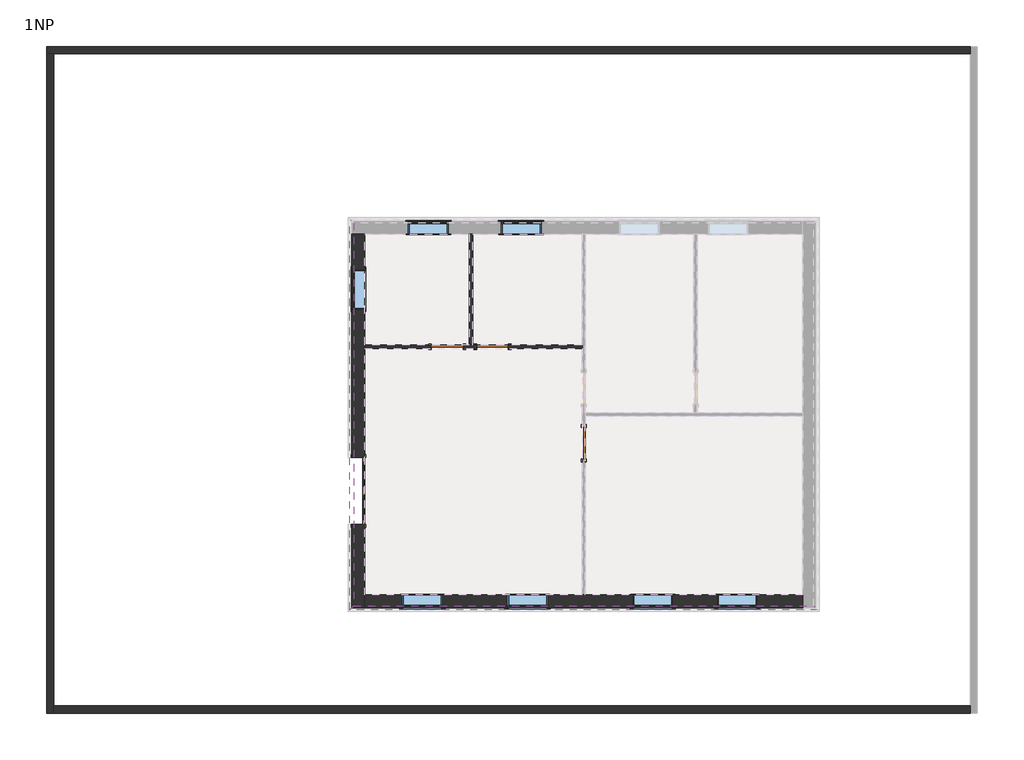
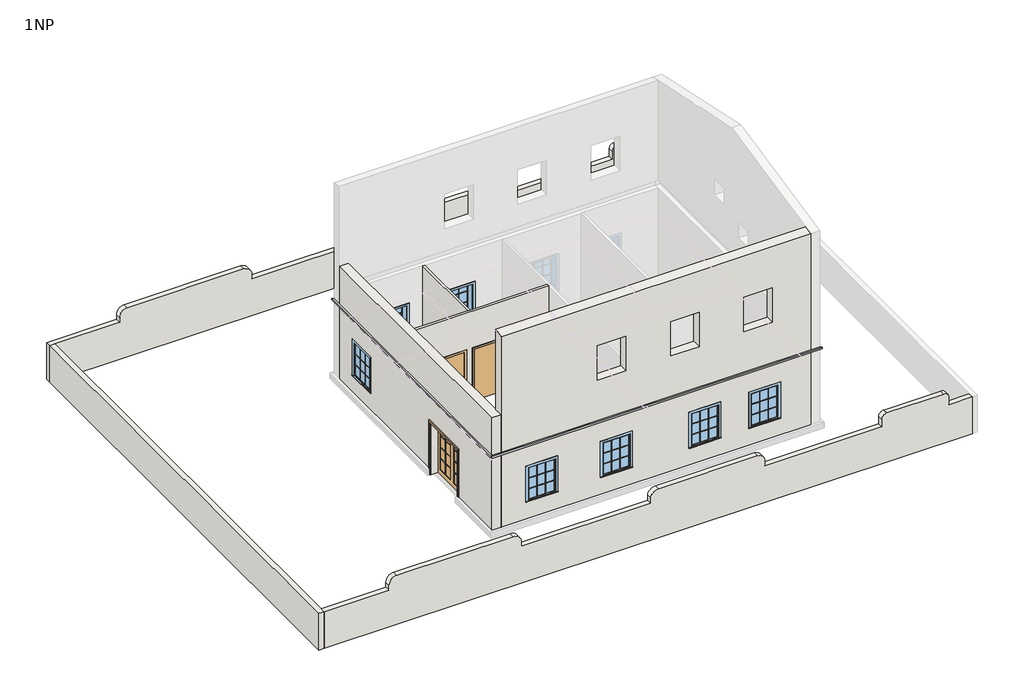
# One storey, part 1 of 2: 7 walls, 7 windows, 4 doors, 2 proxies.
"""IFC4 building model written with IfcOpenShell, lengths in millimetres."""

import ifcopenshell
import ifcopenshell.guid

model = None  # the IFC model being written
_history = None  # IfcOwnerHistory: only IFC2X3 demands one
_inside = {}  # id of a spatial element -> (the spatial element, [elements in it])
_under = {}  # id of a project, library or spatial element -> (it, [spatial elements below it])
_declared = {}  # id of a project -> (the project, [libraries it declares])
_typed = {}  # id of a type object -> (the type object, [elements of that type])
_made_of = {}  # id of a material, layer set ... -> (it, [elements and type objects made of it])


def new_model(schema):
    """Start an empty IFC model of exactly this schema.

    Asked for "IFC4X3", IfcOpenShell would pick the latest addendum, in which some entities
    have other attributes; the version numbers below select the first issue.
    IFC2X3 requires an IfcOwnerHistory on every rooted entity: one is made here for all.
    """
    global model, _history
    if schema == "IFC4X3":
        model = ifcopenshell.file(schema_version=(4, 3, 0, 0))
    else:
        model = ifcopenshell.file(schema=schema)
    _inside.clear()
    _under.clear()
    _declared.clear()
    _typed.clear()
    _made_of.clear()
    _history = None
    if model.schema == "IFC2X3":
        org = make("IfcOrganization", Name="unknown")
        user = make(
            "IfcPersonAndOrganization",
            ThePerson=make("IfcPerson", FamilyName="unknown"),
            TheOrganization=org,
        )
        app = make(
            "IfcApplication",
            ApplicationDeveloper=org,
            Version="unknown",
            ApplicationFullName="unknown",
            ApplicationIdentifier="unknown",
        )
        _history = make(
            "IfcOwnerHistory",
            OwningUser=user,
            OwningApplication=app,
            ChangeAction="ADDED",
            CreationDate=0,
        )
    return model


def make(cls, **values):
    """One entity of the class cls with the attributes given. An attribute that is None is left unset."""
    return model.create_entity(
        cls, **{name: value for name, value in values.items() if value is not None}
    )


def rooted(cls, **values):
    """An entity with a GlobalId (a new one), such as an element, a storey or a relation."""
    return make(cls, GlobalId=ifcopenshell.guid.new(), OwnerHistory=_history, **values)


def si_unit(unit_type, name, prefix=None):
    """IfcSIUnit, for example si_unit("LENGTHUNIT", "METRE", prefix="MILLI")."""
    return make("IfcSIUnit", UnitType=unit_type, Prefix=prefix, Name=name)


def assignment(units):
    """IfcUnitAssignment: the units of a project."""
    return None if units is None else make("IfcUnitAssignment", Units=units)


def point(xyz):
    """IfcCartesianPoint."""
    return None if xyz is None else make("IfcCartesianPoint", Coordinates=xyz)


def direction(xyz):
    """IfcDirection."""
    return None if xyz is None else make("IfcDirection", DirectionRatios=xyz)


def frame(location, z_axis=None, x_axis=None):
    """IfcAxis2Placement3D, a coordinate frame: its origin and axes. An axis left out is left unset."""
    return make(
        "IfcAxis2Placement3D",
        Location=point(location),
        Axis=direction(z_axis),
        RefDirection=direction(x_axis),
    )


def frame_2d(location, x_axis=None):
    """IfcAxis2Placement2D, a coordinate frame in the plane: its origin and x axis."""
    return make(
        "IfcAxis2Placement2D", Location=point(location), RefDirection=direction(x_axis)
    )


def origin():
    """The frame at (0, 0, 0) with its axes left unset."""
    return frame((0.0, 0.0, 0.0))


def origin_with_axes():
    """The frame at (0, 0, 0) with the z axis (0, 0, 1) and the x axis (1, 0, 0) written out."""
    return frame((0.0, 0.0, 0.0), z_axis=(0.0, 0.0, 1.0), x_axis=(1.0, 0.0, 0.0))


def place(relative_to, where):
    """IfcLocalPlacement: puts the frame where relative to a parent placement (None: the world)."""
    return make(
        "IfcLocalPlacement", PlacementRelTo=relative_to, RelativePlacement=where
    )


def context(
    kind, dimensions, precision=None, world=None, true_north=None, identifier=None
):
    """IfcGeometricRepresentationContext, for example the 3D "Model" context."""
    return make(
        "IfcGeometricRepresentationContext",
        ContextIdentifier=identifier,
        ContextType=kind,
        CoordinateSpaceDimension=dimensions,
        Precision=precision,
        WorldCoordinateSystem=world,
        TrueNorth=true_north,
    )


def project(units=None, contexts=None):
    """IfcProject with its units and contexts."""
    return rooted(
        "IfcProject",
        Name="project",
        RepresentationContexts=contexts,
        UnitsInContext=assignment(units),
    )


def spatial(cls, under=None, at=None, **own):
    """A site, building, storey or space (cls), placed at a placement, below another one or the project."""
    s = rooted(cls, ObjectPlacement=at, **own)
    if under is not None:
        _under.setdefault(under.id(), (under, []))[1].append(s)
    return s


def polyline(points):
    """IfcPolyline through the points."""
    return make("IfcPolyline", Points=[point(p) for p in points])


def circle_curve(where, radius):
    """IfcCircle in the frame where."""
    return make("IfcCircle", Position=where, Radius=radius)


def trimmed(basis, trim1, trim2, sense, master):
    """IfcTrimmedCurve: the piece of a basis curve between two trims."""
    return make(
        "IfcTrimmedCurve",
        BasisCurve=basis,
        Trim1=trim1,
        Trim2=trim2,
        SenseAgreement=sense,
        MasterRepresentation=master,
    )


def segment(curve, same_sense, transition):
    """IfcCompositeCurveSegment."""
    return make(
        "IfcCompositeCurveSegment",
        Transition=transition,
        SameSense=same_sense,
        ParentCurve=curve,
    )


def composite_curve(segments, self_intersect=None):
    """IfcCompositeCurve: segments joined end to end."""
    return make("IfcCompositeCurve", Segments=segments, SelfIntersect=self_intersect)


def outline(outer, holes=None, kind="AREA"):
    """IfcArbitraryClosedProfileDef: a profile drawn as a closed curve; with holes, ...WithVoids."""
    if holes is None:
        return make("IfcArbitraryClosedProfileDef", ProfileType=kind, OuterCurve=outer)
    return make(
        "IfcArbitraryProfileDefWithVoids",
        ProfileType=kind,
        OuterCurve=outer,
        InnerCurves=holes,
    )


def extrude(swept, where, along, depth):
    """IfcExtrudedAreaSolid: the profile swept, set in the frame where, extruded along a direction by depth."""
    return make(
        "IfcExtrudedAreaSolid",
        SweptArea=swept,
        Position=where,
        ExtrudedDirection=direction(along),
        Depth=depth,
    )


def faces_of(points, faces, orient=None, outer=None):
    """IfcFace entities. A face is a list of loops; a loop is a list of indices into points, from 0.

    orient and outer hold one flag for each loop. By default every Orientation is true, the
    first loop of a face is its IfcFaceOuterBound and the others are IfcFaceBound.
    """
    made = []
    for i, loops in enumerate(faces):
        bounds = []
        for j, loop in enumerate(loops):
            is_outer = j == 0 if outer is None else outer[i][j]
            bounds.append(
                make(
                    "IfcFaceOuterBound" if is_outer else "IfcFaceBound",
                    Bound=make("IfcPolyLoop", Polygon=[points[k] for k in loop]),
                    Orientation=True if orient is None else orient[i][j],
                )
            )
        made.append(make("IfcFace", Bounds=bounds))
    return made


def faceted_brep(points, faces, orient=None, outer=None, voids=None):
    """IfcFacetedBrep: a solid bounded by flat faces; with voids (closed shells), ...WithVoids."""
    shared = [point(p) for p in points]
    hull = make("IfcClosedShell", CfsFaces=faces_of(shared, faces, orient, outer))
    if voids is None:
        return make("IfcFacetedBrep", Outer=hull)
    return make(
        "IfcFacetedBrepWithVoids",
        Outer=hull,
        Voids=[
            make(cls, CfsFaces=faces_of(shared, fs, o, b)) for cls, fs, o, b in voids
        ],
    )


def shape(context_of_items, identifier, shape_type, items):
    """IfcShapeRepresentation: the items that make up one representation, for example the "Body"."""
    return make(
        "IfcShapeRepresentation",
        ContextOfItems=context_of_items,
        RepresentationIdentifier=identifier,
        RepresentationType=shape_type,
        Items=items,
    )


def source(mapping_origin, context_of_items, identifier, shape_type, items):
    """IfcRepresentationMap: a shape defined once, which mapped items show again and again."""
    return make(
        "IfcRepresentationMap",
        MappingOrigin=mapping_origin,
        MappedRepresentation=shape(context_of_items, identifier, shape_type, items),
    )


def transform(
    local_origin,
    x_axis=None,
    y_axis=None,
    z_axis=None,
    scale=None,
    scale2=None,
    scale3=None,
    uniform=True,
):
    """IfcCartesianTransformationOperator3D, or its non-uniform kind. x_axis, y_axis, z_axis: its Axis1, 2, 3."""
    if uniform:
        return make(
            "IfcCartesianTransformationOperator3D",
            Axis1=direction(x_axis),
            Axis2=direction(y_axis),
            LocalOrigin=point(local_origin),
            Scale=scale,
            Axis3=direction(z_axis),
        )
    return make(
        "IfcCartesianTransformationOperator3DnonUniform",
        Axis1=direction(x_axis),
        Axis2=direction(y_axis),
        LocalOrigin=point(local_origin),
        Scale=scale,
        Axis3=direction(z_axis),
        Scale2=scale2,
        Scale3=scale3,
    )


def mapped(mapping_source, mapping_target):
    """IfcMappedItem: shows the shape of a source again, moved by a transform."""
    return make(
        "IfcMappedItem", MappingSource=mapping_source, MappingTarget=mapping_target
    )


def made_of(thing, what):
    """Note that an element or type object is made of a material, layer set ...; save() writes the relation."""
    if what is not None:
        _made_of.setdefault(what.id(), (what, []))[1].append(thing)
    return thing


def element(
    cls,
    number,
    at=None,
    inside=None,
    cuts=None,
    type_object=None,
    material=None,
    context=None,
    identifier="Body",
    shape_type=None,
    held_by="IfcProductDefinitionShape",
    body=None,
    shapes=None,
    **own,
):
    """One element of the class cls, such as IfcWall. Its Tag is "e" and its number.

    at: its placement. inside: the storey or other place that contains it. cuts: it is an
    opening in that element (IfcRelVoidsElement). A single representation is given by context,
    identifier, shape_type and body (its items); several are given by shapes. held_by: the class
    of the entity that holds the representations. save() writes the other relations.
    """
    e = rooted(cls, Tag="e%d" % number, ObjectPlacement=at, **own)
    if body is not None:
        shapes = [shape(context, identifier, shape_type, body)]
    if shapes is not None:
        e.Representation = make(held_by, Representations=shapes)
    if inside is not None:
        _inside.setdefault(inside.id(), (inside, []))[1].append(e)
    if cuts is not None:
        rooted(
            "IfcRelVoidsElement", RelatingBuildingElement=cuts, RelatedOpeningElement=e
        )
    if type_object is not None:
        _typed.setdefault(type_object.id(), (type_object, []))[1].append(e)
    return made_of(e, material)


def aggregate(whole, parts):
    """IfcRelAggregates: a whole, such as a stair, and the parts it consists of."""
    return rooted("IfcRelAggregates", RelatingObject=whole, RelatedObjects=parts)


def save(model, path):
    """Write the relations noted so far, then the file.

    IfcRelAggregates (storeys below a building ...), IfcRelContainedInSpatialStructure (elements
    in a storey), IfcRelDefinesByType, IfcRelAssociatesMaterial and IfcRelDeclares: one each for
    every whole, place, type object, material and project.
    """
    for whole, parts in _under.values():
        aggregate(whole, parts)
    for where, things in _inside.values():
        rooted(
            "IfcRelContainedInSpatialStructure",
            RelatedElements=things,
            RelatingStructure=where,
        )
    for kind, things in _typed.values():
        rooted("IfcRelDefinesByType", RelatedObjects=things, RelatingType=kind)
    for what, things in _made_of.values():
        rooted("IfcRelAssociatesMaterial", RelatedObjects=things, RelatingMaterial=what)
    for by, libraries in _declared.values():
        rooted("IfcRelDeclares", RelatingContext=by, RelatedDefinitions=libraries)
    model.write(path)


def plane_surface(at):
    """IfcPlane: the flat surface through the origin of the frame at, square to its z axis."""
    return make("IfcPlane", Position=at)


def cylinder_surface(at, radius):
    """IfcCylindricalSurface: all points at the distance radius from the z axis of the frame at."""
    return make("IfcCylindricalSurface", Position=at, Radius=radius)


def advanced_brep(points, edges, surfaces, faces):
    """IfcAdvancedBrep: a solid bounded by faces that lie on surfaces and meet in shared edges.

    An edge is (start, end): straight between two places in points (the first is 0);
    or (start, end, curve); or (start, end, curve, False) where it runs against its curve.
    A face is (place in surfaces, loops), or (place, loops, False) where it looks against
    its surface's normal. A loop lists edges by number (the first is 1), with a minus sign
    where the edge is run from its end to its start. The first loop is the outer one.
    """
    corners = [point(p) for p in points]
    vertices = [make("IfcVertexPoint", VertexGeometry=c) for c in corners]
    made = []
    for start, end, *more in edges:
        made.append(
            make(
                "IfcEdgeCurve",
                EdgeStart=vertices[start],
                EdgeEnd=vertices[end],
                EdgeGeometry=more[0] if more else make("IfcPolyline", Points=[corners[start], corners[end]]),
                SameSense=more[1] if len(more) > 1 else True,
            )
        )
    hull = []
    for where, loops, *sense in faces:
        bounds = []
        for j, loop in enumerate(loops):
            ring = [make("IfcOrientedEdge", EdgeElement=made[abs(k) - 1], Orientation=k > 0) for k in loop]
            bounds.append(
                make(
                    "IfcFaceOuterBound" if j == 0 else "IfcFaceBound",
                    Bound=make("IfcEdgeLoop", EdgeList=ring),
                    Orientation=True,
                )
            )
        hull.append(make("IfcAdvancedFace", Bounds=bounds, FaceSurface=surfaces[where], SameSense=sense[0] if sense else True))
    return make("IfcAdvancedBrep", Outer=make("IfcClosedShell", CfsFaces=hull))


def m_double_glass_2_1830_x_2134mm_ef281dce(model_context):
    return source(origin(), model_context, "Body", "SweptSolid", [
        extrude(outline(polyline([(470.0, 155.95), (788.0, 155.95), (788.0, 143.25), (470.0, 143.25), (470.0, 155.95)])), frame((0.0, 0.0, 1569.25), z_axis=(0.0, 0.0, 1.0), x_axis=(1.0, 0.0, 0.0)), (0.0, 0.0, 1.0), 439.75),
        extrude(outline(polyline([(127.0, 155.95), (445.0, 155.95), (445.0, 143.25), (127.0, 143.25), (127.0, 155.95)])), frame((0.0, 0.0, 1569.25), z_axis=(0.0, 0.0, 1.0), x_axis=(1.0, 0.0, 0.0)), (0.0, 0.0, 1.0), 439.75),
        extrude(outline(polyline([(-445.0, 155.95), (-127.0, 155.95), (-127.0, 143.25), (-445.0, 143.25), (-445.0, 155.95)])), frame((0.0, 0.0, 1569.25), z_axis=(0.0, 0.0, 1.0), x_axis=(1.0, 0.0, 0.0)), (0.0, 0.0, 1.0), 439.75),
        extrude(outline(polyline([(-788.0, 155.95), (-470.0, 155.95), (-470.0, 143.25), (-788.0, 143.25), (-788.0, 155.95)])), frame((0.0, 0.0, 1569.25), z_axis=(0.0, 0.0, 1.0), x_axis=(1.0, 0.0, 0.0)), (0.0, 0.0, 1.0), 439.75),
        extrude(outline(polyline([(-788.0, 155.95), (-470.0, 155.95), (-470.0, 143.25), (-788.0, 143.25), (-788.0, 155.95)])), frame((0.0, 0.0, 1104.5), z_axis=(0.0, 0.0, 1.0), x_axis=(1.0, 0.0, 0.0)), (0.0, 0.0, 1.0), 439.75),
        extrude(outline(polyline([(-445.0, 155.95), (-127.0, 155.95), (-127.0, 143.25), (-445.0, 143.25), (-445.0, 155.95)])), frame((0.0, 0.0, 1104.5), z_axis=(0.0, 0.0, 1.0), x_axis=(1.0, 0.0, 0.0)), (0.0, 0.0, 1.0), 439.75),
        extrude(outline(polyline([(127.0, 155.95), (445.0, 155.95), (445.0, 143.25), (127.0, 143.25), (127.0, 155.95)])), frame((0.0, 0.0, 1104.5), z_axis=(0.0, 0.0, 1.0), x_axis=(1.0, 0.0, 0.0)), (0.0, 0.0, 1.0), 439.75),
        extrude(outline(polyline([(470.0, 155.95), (788.0, 155.95), (788.0, 143.25), (470.0, 143.25), (470.0, 155.95)])), frame((0.0, 0.0, 1104.5), z_axis=(0.0, 0.0, 1.0), x_axis=(1.0, 0.0, 0.0)), (0.0, 0.0, 1.0), 439.75),
        extrude(outline(polyline([(470.0, 155.95), (788.0, 155.95), (788.0, 143.25), (470.0, 143.25), (470.0, 155.95)])), frame((0.0, 0.0, 639.75), z_axis=(0.0, 0.0, 1.0), x_axis=(1.0, 0.0, 0.0)), (0.0, 0.0, 1.0), 439.75),
        extrude(outline(polyline([(127.0, 155.95), (445.0, 155.95), (445.0, 143.25), (127.0, 143.25), (127.0, 155.95)])), frame((0.0, 0.0, 639.75), z_axis=(0.0, 0.0, 1.0), x_axis=(1.0, 0.0, 0.0)), (0.0, 0.0, 1.0), 439.75),
        extrude(outline(polyline([(-445.0, 155.95), (-127.0, 155.95), (-127.0, 143.25), (-445.0, 143.25), (-445.0, 155.95)])), frame((0.0, 0.0, 639.75), z_axis=(0.0, 0.0, 1.0), x_axis=(1.0, 0.0, 0.0)), (0.0, 0.0, 1.0), 439.75),
        extrude(outline(polyline([(-788.0, 155.95), (-470.0, 155.95), (-470.0, 143.25), (-788.0, 143.25), (-788.0, 155.95)])), frame((0.0, 0.0, 639.75), z_axis=(0.0, 0.0, 1.0), x_axis=(1.0, 0.0, 0.0)), (0.0, 0.0, 1.0), 439.75),
        extrude(outline(polyline([(470.0, 155.95), (788.0, 155.95), (788.0, 143.25), (470.0, 143.25), (470.0, 155.95)])), frame((0.0, 0.0, 175.0), z_axis=(0.0, 0.0, 1.0), x_axis=(1.0, 0.0, 0.0)), (0.0, 0.0, 1.0), 439.75),
        extrude(outline(polyline([(127.0, 155.95), (445.0, 155.95), (445.0, 143.25), (127.0, 143.25), (127.0, 155.95)])), frame((0.0, 0.0, 175.0), z_axis=(0.0, 0.0, 1.0), x_axis=(1.0, 0.0, 0.0)), (0.0, 0.0, 1.0), 439.75),
        extrude(outline(polyline([(-445.0, 155.95), (-127.0, 155.95), (-127.0, 143.25), (-445.0, 143.25), (-445.0, 155.95)])), frame((0.0, 0.0, 175.0), z_axis=(0.0, 0.0, 1.0), x_axis=(1.0, 0.0, 0.0)), (0.0, 0.0, 1.0), 439.75),
        extrude(outline(polyline([(-788.0, 155.95), (-470.0, 155.95), (-470.0, 143.25), (-788.0, 143.25), (-788.0, 155.95)])), frame((0.0, 0.0, 175.0), z_axis=(0.0, 0.0, 1.0), x_axis=(1.0, 0.0, 0.0)), (0.0, 0.0, 1.0), 439.75),
        extrude(outline(polyline([(2134.0, 0.0), (2134.0, -915.0), (0.0, -915.0), (0.0, 0.0), (0.0, 915.0), (2134.0, 915.0), (2134.0, 0.0)]), holes=[polyline([(2009.0, 470.0), (2009.0, 788.0), (1569.25, 788.0), (1569.25, 470.0), (2009.0, 470.0)]), polyline([(2009.0, 127.0), (2009.0, 445.0), (1569.25, 445.0), (1569.25, 127.0), (2009.0, 127.0)]), polyline([(1544.25, 470.0), (1544.25, 788.0), (1104.5, 788.0), (1104.5, 470.0), (1544.25, 470.0)]), polyline([(1544.25, 127.0), (1544.25, 445.0), (1104.5, 445.0), (1104.5, 127.0), (1544.25, 127.0)]), polyline([(1079.5, 470.0), (1079.5, 788.0), (639.75, 788.0), (639.75, 470.0), (1079.5, 470.0)]), polyline([(1079.5, 127.0), (1079.5, 445.0), (639.75, 445.0), (639.75, 127.0), (1079.5, 127.0)]), polyline([(614.75, 470.0), (614.75, 788.0), (175.0, 788.0), (175.0, 470.0), (614.75, 470.0)]), polyline([(614.75, 127.0), (614.75, 445.0), (175.0, 445.0), (175.0, 127.0), (614.75, 127.0)]), polyline([(2009.0, -445.0), (2009.0, -127.0), (1569.25, -127.0), (1569.25, -445.0), (2009.0, -445.0)]), polyline([(1544.25, -445.0), (1544.25, -127.0), (1104.5, -127.0), (1104.5, -445.0), (1544.25, -445.0)]), polyline([(1544.25, -470.0), (1104.5, -470.0), (1104.5, -788.0), (1544.25, -788.0), (1544.25, -470.0)]), polyline([(1079.5, -445.0), (1079.5, -127.0), (639.75, -127.0), (639.75, -445.0), (1079.5, -445.0)]), polyline([(1079.5, -470.0), (639.75, -470.0), (639.75, -788.0), (1079.5, -788.0), (1079.5, -470.0)]), polyline([(614.75, -445.0), (614.75, -127.0), (175.0, -127.0), (175.0, -445.0), (614.75, -445.0)]), polyline([(614.75, -788.0), (614.75, -470.0), (175.0, -470.0), (175.0, -788.0), (614.75, -788.0)]), polyline([(1569.25, -470.0), (1569.25, -788.0), (2009.0, -788.0), (2009.0, -470.0), (1569.25, -470.0)])]), frame((0.0, 124.0, 0.0), z_axis=(0.0, 1.0, 0.0), x_axis=(0.0, 0.0, 1.0)), (0.0, 0.0, 1.0), 51.0),
        extrude(outline(polyline([(2134.0, -915.0), (2134.0, 915.0), (0.0, 915.0), (0.0, 991.2), (2210.2, 991.2), (2210.2, -991.2), (0.0, -991.2), (0.0, -915.0), (2134.0, -915.0)])), frame((0.0, -200.0, 0.0), z_axis=(0.0, 1.0, 0.0), x_axis=(0.0, 0.0, 1.0)), (0.0, 0.0, 1.0), 25.0),
        extrude(outline(polyline([(2134.0, -915.0), (2134.0, 915.0), (0.0, 915.0), (0.0, 991.2), (2210.2, 991.2), (2210.2, -991.2), (0.0, -991.2), (0.0, -915.0), (2134.0, -915.0)])), frame((0.0, 175.0, 0.0), z_axis=(0.0, 1.0, 0.0), x_axis=(0.0, 0.0, 1.0)), (0.0, 0.0, 1.0), 25.0),
    ])


def m_single_flush_0864_x_2134mm_2f1c7364(model_context):
    return source(origin(), model_context, "Body", "SweptSolid", [
        extrude(outline(polyline([(2210.0, -508.0), (0.0, -508.0), (0.0, -432.0), (2134.0, -432.0), (2134.0, 432.0), (0.0, 432.0), (0.0, 508.0), (2210.0, 508.0), (2210.0, -508.0)])), frame((0.0, 45.0, 0.0), z_axis=(0.0, 1.0, 0.0), x_axis=(0.0, 0.0, 1.0)), (0.0, 0.0, 1.0), 25.0),
        extrude(outline(polyline([(2210.0, 508.0), (2210.0, -508.0), (0.0, -508.0), (0.0, -432.0), (2134.0, -432.0), (2134.0, 432.0), (0.0, 432.0), (0.0, 508.0), (2210.0, 508.0)])), frame((0.0, -70.0, 0.0), z_axis=(0.0, 1.0, 0.0), x_axis=(0.0, 0.0, 1.0)), (0.0, 0.0, 1.0), 25.0),
        extrude(outline(polyline([(432.0, -6.0), (-432.0, -6.0), (-432.0, 45.0), (432.0, 45.0), (432.0, -6.0)])), origin_with_axes(), (0.0, 0.0, 1.0), 2134.0),
    ])


def m_single_flush_0864_x_2134mm_ac23343d(model_context):
    return source(origin(), model_context, "Body", "SweptSolid", [
        extrude(outline(polyline([(2210.0, -508.0), (0.0, -508.0), (0.0, -432.0), (2134.0, -432.0), (2134.0, 432.0), (0.0, 432.0), (0.0, 508.0), (2210.0, 508.0), (2210.0, -508.0)])), frame((0.0, -70.0, 0.0), z_axis=(0.0, 1.0, 0.0), x_axis=(0.0, 0.0, 1.0)), (0.0, 0.0, 1.0), 25.0),
        extrude(outline(polyline([(2210.0, 508.0), (2210.0, -508.0), (0.0, -508.0), (0.0, -432.0), (2134.0, -432.0), (2134.0, 432.0), (0.0, 432.0), (0.0, 508.0), (2210.0, 508.0)])), frame((0.0, 45.0, 0.0), z_axis=(0.0, 1.0, 0.0), x_axis=(0.0, 0.0, 1.0)), (0.0, 0.0, 1.0), 25.0),
        extrude(outline(polyline([(432.0, 6.0), (432.0, -45.0), (-432.0, -45.0), (-432.0, 6.0), (432.0, 6.0)])), origin_with_axes(), (0.0, 0.0, 1.0), 2134.0),
    ])


def m_casement_3x3_with_trim_1100_x_1400mm_61373874(model_context):
    return source(origin(), model_context, "Body", "SweptSolid", [
        extrude(outline(polyline([(-619.95, 200.7), (619.95, 200.7), (619.95, 175.0), (-619.95, 175.0), (-619.95, 200.7)])), frame((0.0, 0.0, 915.0), z_axis=(0.0, 0.0, 1.0), x_axis=(1.0, 0.0, 0.0)), (0.0, 0.0, 1.0), 19.05),
        extrude(outline(polyline([(2295.95, -530.95), (2295.95, 530.95), (934.05, 530.95), (934.05, 619.95), (2384.95, 619.95), (2384.95, -619.95), (934.05, -619.95), (934.05, -530.95), (2295.95, -530.95)])), frame((0.0, 175.0, 0.0), z_axis=(0.0, 1.0, 0.0), x_axis=(0.0, 0.0, 1.0)), (0.0, 0.0, 1.0), 13.0),
        extrude(outline(polyline([(174.8666667, 140.125), (486.5, 140.125), (486.5, 127.425), (174.8666667, 127.425), (174.8666667, 140.125)])), frame((0.0, 0.0, 1839.8666667), z_axis=(0.0, 0.0, 1.0), x_axis=(1.0, 0.0, 0.0)), (0.0, 0.0, 1.0), 411.6333333),
        extrude(outline(polyline([(-155.8166667, 140.125), (155.8166667, 140.125), (155.8166667, 127.425), (-155.8166667, 127.425), (-155.8166667, 140.125)])), frame((0.0, 0.0, 1839.8666667), z_axis=(0.0, 0.0, 1.0), x_axis=(1.0, 0.0, 0.0)), (0.0, 0.0, 1.0), 411.6333333),
        extrude(outline(polyline([(-486.5, 140.125), (-174.8666667, 140.125), (-174.8666667, 127.425), (-486.5, 127.425), (-486.5, 140.125)])), frame((0.0, 0.0, 1839.8666667), z_axis=(0.0, 0.0, 1.0), x_axis=(1.0, 0.0, 0.0)), (0.0, 0.0, 1.0), 411.6333333),
        extrude(outline(polyline([(-486.5, 140.125), (-174.8666667, 140.125), (-174.8666667, 127.425), (-486.5, 127.425), (-486.5, 140.125)])), frame((0.0, 0.0, 1409.1833333), z_axis=(0.0, 0.0, 1.0), x_axis=(1.0, 0.0, 0.0)), (0.0, 0.0, 1.0), 411.6333333),
        extrude(outline(polyline([(-155.8166667, 140.125), (155.8166667, 140.125), (155.8166667, 127.425), (-155.8166667, 127.425), (-155.8166667, 140.125)])), frame((0.0, 0.0, 1409.1833333), z_axis=(0.0, 0.0, 1.0), x_axis=(1.0, 0.0, 0.0)), (0.0, 0.0, 1.0), 411.6333333),
        extrude(outline(polyline([(174.8666667, 140.125), (486.5, 140.125), (486.5, 127.425), (174.8666667, 127.425), (174.8666667, 140.125)])), frame((0.0, 0.0, 1409.1833333), z_axis=(0.0, 0.0, 1.0), x_axis=(1.0, 0.0, 0.0)), (0.0, 0.0, 1.0), 411.6333333),
        extrude(outline(polyline([(174.8666667, 140.125), (486.5, 140.125), (486.5, 127.425), (174.8666667, 127.425), (174.8666667, 140.125)])), frame((0.0, 0.0, 978.5), z_axis=(0.0, 0.0, 1.0), x_axis=(1.0, 0.0, 0.0)), (0.0, 0.0, 1.0), 411.6333333),
        extrude(outline(polyline([(-155.8166667, 140.125), (155.8166667, 140.125), (155.8166667, 127.425), (-155.8166667, 127.425), (-155.8166667, 140.125)])), frame((0.0, 0.0, 978.5), z_axis=(0.0, 0.0, 1.0), x_axis=(1.0, 0.0, 0.0)), (0.0, 0.0, 1.0), 411.6333333),
        extrude(outline(polyline([(-486.5, 140.125), (-174.8666667, 140.125), (-174.8666667, 127.425), (-486.5, 127.425), (-486.5, 140.125)])), frame((0.0, 0.0, 978.5), z_axis=(0.0, 0.0, 1.0), x_axis=(1.0, 0.0, 0.0)), (0.0, 0.0, 1.0), 411.6333333),
        extrude(outline(polyline([(2372.25, 607.25), (2372.25, -607.25), (857.75, -607.25), (857.75, 607.25), (2372.25, 607.25)]), holes=[polyline([(2283.25, 518.25), (946.75, 518.25), (946.75, -518.25), (2283.25, -518.25), (2283.25, 518.25)])]), frame((0.0, -194.0, 0.0), z_axis=(0.0, 1.0, 0.0), x_axis=(0.0, 0.0, 1.0)), (0.0, 0.0, 1.0), 19.0),
        extrude(outline(polyline([(2295.95, -530.95), (934.05, -530.95), (934.05, 530.95), (2295.95, 530.95), (2295.95, -530.95)]), holes=[polyline([(2251.5, -174.8666667), (1839.8666667, -174.8666667), (1839.8666667, -486.5), (2251.5, -486.5), (2251.5, -174.8666667)]), polyline([(1820.8166667, -174.8666667), (1409.1833333, -174.8666667), (1409.1833333, -486.5), (1820.8166667, -486.5), (1820.8166667, -174.8666667)]), polyline([(1390.1333333, -174.8666667), (978.5, -174.8666667), (978.5, -486.5), (1390.1333333, -486.5), (1390.1333333, -174.8666667)]), polyline([(2251.5, 155.8166667), (1839.8666667, 155.8166667), (1839.8666667, -155.8166667), (2251.5, -155.8166667), (2251.5, 155.8166667)]), polyline([(1820.8166667, 155.8166667), (1409.1833333, 155.8166667), (1409.1833333, -155.8166667), (1820.8166667, -155.8166667), (1820.8166667, 155.8166667)]), polyline([(1390.1333333, 155.8166667), (978.5, 155.8166667), (978.5, -155.8166667), (1390.1333333, -155.8166667), (1390.1333333, 155.8166667)]), polyline([(2251.5, 486.5), (1839.8666667, 486.5), (1839.8666667, 174.8666667), (2251.5, 174.8666667), (2251.5, 486.5)]), polyline([(1820.8166667, 486.5), (1409.1833333, 486.5), (1409.1833333, 174.8666667), (1820.8166667, 174.8666667), (1820.8166667, 486.5)]), polyline([(1390.1333333, 486.5), (978.5, 486.5), (978.5, 174.8666667), (1390.1333333, 174.8666667), (1390.1333333, 486.5)])]), frame((0.0, 111.55, 0.0), z_axis=(0.0, 1.0, 0.0), x_axis=(0.0, 0.0, 1.0)), (0.0, 0.0, 1.0), 44.45),
        extrude(outline(polyline([(2315.0, -550.0), (915.0, -550.0), (915.0, 550.0), (2315.0, 550.0), (2315.0, -550.0)]), holes=[polyline([(2283.25, -518.25), (2283.25, 518.25), (946.75, 518.25), (946.75, -518.25), (2283.25, -518.25)])]), frame((0.0, -175.0, 0.0), z_axis=(0.0, 1.0, 0.0), x_axis=(0.0, 0.0, 1.0)), (0.0, 0.0, 1.0), 286.55),
        extrude(outline(polyline([(2315.0, 550.0), (2315.0, -550.0), (915.0, -550.0), (915.0, 550.0), (2315.0, 550.0)]), holes=[polyline([(2295.95, 530.95), (934.05, 530.95), (934.05, -530.95), (2295.95, -530.95), (2295.95, 530.95)])]), frame((0.0, 111.55, 0.0), z_axis=(0.0, 1.0, 0.0), x_axis=(0.0, 0.0, 1.0)), (0.0, 0.0, 1.0), 63.45),
    ])


model = new_model("IFC4")

# Units and contexts
model_context = context("Model", 3, world=origin())
ifc_project = project(units=[si_unit("LENGTHUNIT", "METRE", prefix="MILLI")], contexts=[model_context])

# Site, building, storey
site = spatial("IfcSite", under=ifc_project)
building = spatial("IfcBuilding", under=site)
storey = spatial("IfcBuildingStorey", under=building, Name="1NP", Elevation=0.0)

# Proxies
placement = place(None, origin())
element("IfcBuildingElementProxy", 1, Name="Reveals", at=placement, inside=storey, context=model_context, shape_type="SweptSolid", body=[
    extrude(outline(polyline([(7810.3965437, -5113.8644596), (7912.8965437, -5216.3644596), (-4852.1034563, -5216.3644596), (-4749.6034563, -5113.8644596), (7810.3965437, -5113.8644596)])), frame((0.0, 0.0, 3200.0), z_axis=(0.0, 0.0, 1.0), x_axis=(1.0, 0.0, 0.0)), (0.0, 0.0, 1.0), 75.0),
])
element("IfcBuildingElementProxy", 2, Name="Reveals", at=placement, inside=storey, context=model_context, shape_type="SweptSolid", body=[
    extrude(outline(polyline([(-4749.6034563, -5113.8644596), (-4852.1034563, -5216.3644596), (-4852.1034563, 5448.6355404), (-4749.6034563, 5346.1355404), (-4749.6034563, -5113.8644596)])), frame((0.0, 0.0, 3200.0), z_axis=(0.0, 0.0, 1.0), x_axis=(1.0, 0.0, 0.0)), (0.0, 0.0, 1.0), 75.0),
])

# Doors
m_double_glass_2_1830_x_2134mm_shape = m_double_glass_2_1830_x_2134mm_ef281dce(model_context)
element("IfcDoor", 3, ObjectType="M_Double-Glass 2 : 1830 x 2134mm", at=placement, inside=storey, context=model_context, shape_type="MappedRepresentation", body=[
    mapped(m_double_glass_2_1830_x_2134mm_shape, transform((-4619.6034563, -1968.8644596, 0.0), x_axis=(0.0, -1.0, 0.0), y_axis=(1.0, 0.0, 0.0), z_axis=(0.0, 0.0, 1.0))),
])
m_single_flush_0864_x_2134mm_shape = m_single_flush_0864_x_2134mm_2f1c7364(model_context)
element("IfcDoor", 4, ObjectType="M_Single-Flush : 0864 x 2134mm", at=placement, inside=storey, context=model_context, shape_type="MappedRepresentation", body=[
    mapped(m_single_flush_0864_x_2134mm_shape, transform((-2194.3854659, 1966.1355404, 0.0), x_axis=(1.0, 0.0, 0.0), y_axis=(0.0, 1.0, 0.0), z_axis=(0.0, 0.0, 1.0))),
])
m_single_flush_0864_x_2134mm_2_shape = m_single_flush_0864_x_2134mm_ac23343d(model_context)
element("IfcDoor", 5, ObjectType="M_Single-Flush : 0864 x 2134mm", at=placement, inside=storey, context=model_context, shape_type="MappedRepresentation", body=[
    mapped(m_single_flush_0864_x_2134mm_2_shape, transform((1530.3965437, -665.8644596, 0.0), x_axis=(0.0, 1.0, 0.0), y_axis=(-1.0, 0.0, 0.0), z_axis=(0.0, 0.0, 1.0))),
])
element("IfcDoor", 6, ObjectType="M_Single-Flush : 0864 x 2134mm", at=placement, inside=storey, context=model_context, shape_type="MappedRepresentation", body=[
    mapped(m_single_flush_0864_x_2134mm_2_shape, transform((-962.6034563, 1966.1355404, 0.0), x_axis=(-1.0, 0.0, 0.0), y_axis=(0.0, -1.0, 0.0), z_axis=(0.0, 0.0, 1.0))),
])

# Walls
element("IfcWall", 7, ObjectType="Exterior - Brick on Mtl. Stud se základem", at=placement, inside=storey, context=model_context, shape_type="Brep", body=[
    faceted_brep([(-4444.6034563, 5041.1355404, 4800.0), (-4444.6034563, -5158.8644596, 4800.0), (-4444.6034563, -5158.8644596, 3275.0), (-4444.6034563, -5113.8644596, 3275.0), (-4444.6034563, -5113.8644596, 3200.0), (-4444.6034563, -5158.8644596, 3200.0), (-4444.6034563, -5158.8644596, 225.0), (-4444.6034563, -5158.8644596, 0.0), (-4444.6034563, -4808.8644596, 0.0), (-4444.6034563, -2883.8644596, 0.0), (-4444.6034563, -2883.8644596, 2134.0), (-4444.6034563, -1053.8644596, 2134.0), (-4444.6034563, -1053.8644596, 0.0), (-4444.6034563, 1921.1355404, 0.0), (-4444.6034563, 2011.1355404, 0.0), (-4444.6034563, 5041.1355404, 0.0), (-4444.6034563, 5041.1355404, 3700.0), (-4444.6034563, 2011.1355404, 3700.0), (-4444.6034563, 1921.1355404, 3700.0), (-4444.6034563, -4808.8644596, 3700.0), (-4444.6034563, -4973.8644596, 3700.0), (-4444.6034563, -4973.8644596, 4000.0), (-4444.6034563, -4808.8644596, 4000.0), (-4444.6034563, 5041.1355404, 4000.0), (-4444.6034563, 4078.6355404, 2315.0), (-4444.6034563, 4078.6355404, 915.0), (-4444.6034563, 2978.6355404, 915.0), (-4444.6034563, 2978.6355404, 2315.0), (-4794.6034563, -5158.8644596, 4800.0), (-4794.6034563, 5041.1355404, 4800.0), (-4794.6034563, 5041.1355404, 3275.0), (-4794.6034563, -5158.8644596, 3275.0), (-4794.6034563, -1053.8644596, 2134.0), (-4794.6034563, -2883.8644596, 2134.0), (-4794.6034563, -2883.8644596, 225.0), (-4794.6034563, -2883.8644596, 0.0), (-4794.6034563, -5158.8644596, 0.0), (-4794.6034563, -5158.8644596, 225.0), (-4794.6034563, -5158.8644596, 3200.0), (-4794.6034563, 5041.1355404, 3200.0), (-4794.6034563, 5041.1355404, 225.0), (-4794.6034563, 5041.1355404, 0.0), (-4794.6034563, -1053.8644596, 0.0), (-4794.6034563, -1053.8644596, 225.0), (-4794.6034563, 4078.6355404, 915.0), (-4794.6034563, 4078.6355404, 2315.0), (-4794.6034563, 2978.6355404, 2315.0), (-4794.6034563, 2978.6355404, 915.0), (-4749.6034563, 5041.1355404, 3200.0), (-4749.6034563, 5041.1355404, 3275.0), (-4609.6034563, 5041.1355404, 4000.0), (-4609.6034563, 5041.1355404, 3700.0), (-4609.6034563, -4973.8644596, 3700.0), (-4609.6034563, -4973.8644596, 4000.0), (-4749.6034563, -5113.8644596, 3275.0), (-4749.6034563, -5113.8644596, 3200.0)], [[[0, 1, 2, 3, 4, 5, 6, 7, 8, 9, 10, 11, 12, 13, 14, 15, 16, 17, 18, 19, 20, 21, 22, 23], [24, 25, 26, 27]], [[28, 29, 30, 31]], [[32, 33, 34, 35, 36, 37, 38, 39, 40, 41, 42, 43], [44, 45, 46, 47]], [[7, 36, 35, 9, 8]], [[41, 15, 14, 13, 12, 42]], [[1, 0, 29, 28]], [[1, 28, 31, 2]], [[36, 7, 6, 5, 38, 37]], [[15, 41, 40, 39, 48, 49, 30, 29, 0, 23, 50, 51, 16]], [[10, 9, 35, 34, 33]], [[11, 10, 33, 32]], [[12, 11, 32, 43, 42]], [[25, 24, 45, 44]], [[26, 25, 44, 47]], [[27, 26, 47, 46]], [[24, 27, 46, 45]], [[51, 52, 20, 19, 18, 17, 16]], [[21, 53, 50, 23, 22]], [[52, 53, 21, 20]], [[53, 52, 51, 50]], [[49, 54, 3, 2, 31, 30]], [[4, 55, 48, 39, 38, 5]], [[54, 55, 4, 3]], [[55, 54, 49, 48]]]),
])
element("IfcWall", 8, ObjectType="Exterior - Brick on Mtl. Stud se základem", at=placement, inside=storey, context=model_context, shape_type="Brep", body=[
    faceted_brep([(7505.3965437, -4808.8644596, 0.0), (1575.3965437, -4808.8644596, 0.0), (1485.3965437, -4808.8644596, 0.0), (-4444.6034563, -4808.8644596, 0.0), (-4444.6034563, -4808.8644596, 3700.0), (1485.3965437, -4808.8644596, 3700.0), (1575.3965437, -4808.8644596, 3700.0), (7505.3965437, -4808.8644596, 3700.0), (-3426.4827755, -4808.8644596, 2315.0), (-3426.4827755, -4808.8644596, 915.0), (-2326.4827755, -4808.8644596, 915.0), (-2326.4827755, -4808.8644596, 2315.0), (-551.4827755, -4808.8644596, 2315.0), (-551.4827755, -4808.8644596, 915.0), (548.5172245, -4808.8644596, 915.0), (548.5172245, -4808.8644596, 2315.0), (2862.144816, -4808.8644596, 2315.0), (2862.144816, -4808.8644596, 915.0), (3962.144816, -4808.8644596, 915.0), (3962.144816, -4808.8644596, 2315.0), (5167.8310203, -4808.8644596, 2315.0), (5167.8310203, -4808.8644596, 915.0), (6267.8310203, -4808.8644596, 915.0), (6267.8310203, -4808.8644596, 2315.0), (-4444.6034563, -4808.8644596, 8074.3947966), (555.3965437, -4808.8644596, 8074.3947966), (655.3965437, -4808.8644596, 8074.3947966), (3655.3965437, -4808.8644596, 8074.3947966), (3755.3965437, -4808.8644596, 8074.3947966), (7505.3965437, -4808.8644596, 8074.3947966), (7505.3965437, -4808.8644596, 4000.0), (3755.3965437, -4808.8644596, 4000.0), (3655.3965437, -4808.8644596, 4000.0), (655.3965437, -4808.8644596, 4000.0), (555.3965437, -4808.8644596, 4000.0), (-4444.6034563, -4808.8644596, 4000.0), (-727.1034563, -4808.8644596, 6315.0), (-727.1034563, -4808.8644596, 4915.0), (372.8965437, -4808.8644596, 4915.0), (372.8965437, -4808.8644596, 6315.0), (2097.8965437, -4808.8644596, 6315.0), (2097.8965437, -4808.8644596, 4915.0), (3197.8965437, -4808.8644596, 4915.0), (3197.8965437, -4808.8644596, 6315.0), (4922.8965437, -4808.8644596, 6315.0), (4922.8965437, -4808.8644596, 4915.0), (6022.8965437, -4808.8644596, 4915.0), (6022.8965437, -4808.8644596, 6315.0), (-4444.6034563, -5158.8644596, 0.0), (7505.3965437, -5158.8644596, 0.0), (7505.3965437, -5158.8644596, 225.0), (7505.3965437, -5158.8644596, 3200.0), (-4444.6034563, -5158.8644596, 3200.0), (-4444.6034563, -5158.8644596, 225.0), (-3426.4827755, -5158.8644596, 915.0), (-3426.4827755, -5158.8644596, 2315.0), (-2326.4827755, -5158.8644596, 2315.0), (-2326.4827755, -5158.8644596, 915.0), (-551.4827755, -5158.8644596, 915.0), (-551.4827755, -5158.8644596, 2315.0), (548.5172245, -5158.8644596, 2315.0), (548.5172245, -5158.8644596, 915.0), (2862.144816, -5158.8644596, 915.0), (2862.144816, -5158.8644596, 2315.0), (3962.144816, -5158.8644596, 2315.0), (3962.144816, -5158.8644596, 915.0), (5167.8310203, -5158.8644596, 915.0), (5167.8310203, -5158.8644596, 2315.0), (6267.8310203, -5158.8644596, 2315.0), (6267.8310203, -5158.8644596, 915.0), (7505.3965437, -5158.8644596, 8000.0), (-4444.6034563, -5158.8644596, 8000.0), (-4444.6034563, -5158.8644596, 4800.0), (-4444.6034563, -5158.8644596, 3275.0), (7505.3965437, -5158.8644596, 3275.0), (-727.1034563, -5158.8644596, 4915.0), (-727.1034563, -5158.8644596, 6315.0), (372.8965437, -5158.8644596, 6315.0), (372.8965437, -5158.8644596, 4915.0), (2097.8965437, -5158.8644596, 4915.0), (2097.8965437, -5158.8644596, 6315.0), (3197.8965437, -5158.8644596, 6315.0), (3197.8965437, -5158.8644596, 4915.0), (4922.8965437, -5158.8644596, 4915.0), (4922.8965437, -5158.8644596, 6315.0), (6022.8965437, -5158.8644596, 6315.0), (6022.8965437, -5158.8644596, 4915.0), (-4444.6034563, -5113.8644596, 3200.0), (-4444.6034563, -5113.8644596, 3275.0), (-4444.6034563, -4973.8644596, 4000.0), (-4444.6034563, -4973.8644596, 3700.0), (7505.3965437, -4973.8644596, 3700.0), (7505.3965437, -4973.8644596, 4000.0), (7505.3965437, -5113.8644596, 3275.0), (7505.3965437, -5113.8644596, 3200.0)], [[[0, 1, 2, 3, 4, 5, 6, 7], [8, 9, 10, 11], [12, 13, 14, 15], [16, 17, 18, 19], [20, 21, 22, 23]], [[24, 25, 26, 27, 28, 29, 30, 31, 32, 33, 34, 35], [36, 37, 38, 39], [40, 41, 42, 43], [44, 45, 46, 47]], [[48, 49, 50, 51, 52, 53], [54, 55, 56, 57], [58, 59, 60, 61], [62, 63, 64, 65], [66, 67, 68, 69]], [[70, 71, 72, 73, 74], [75, 76, 77, 78], [79, 80, 81, 82], [83, 84, 85, 86]], [[3, 2, 1, 0, 49, 48]], [[3, 48, 53, 52, 87, 88, 73, 72, 71, 24, 35, 89, 90, 4]], [[49, 0, 7, 91, 92, 30, 29, 70, 74, 93, 94, 51, 50]], [[29, 28, 27, 26, 25, 24, 71, 70]], [[9, 8, 55, 54]], [[10, 9, 54, 57]], [[11, 10, 57, 56]], [[8, 11, 56, 55]], [[13, 12, 59, 58]], [[14, 13, 58, 61]], [[15, 14, 61, 60]], [[12, 15, 60, 59]], [[17, 16, 63, 62]], [[18, 17, 62, 65]], [[19, 18, 65, 64]], [[16, 19, 64, 63]], [[21, 20, 67, 66]], [[22, 21, 66, 69]], [[23, 22, 69, 68]], [[20, 23, 68, 67]], [[37, 36, 76, 75]], [[38, 37, 75, 78]], [[39, 38, 78, 77]], [[36, 39, 77, 76]], [[41, 40, 80, 79]], [[42, 41, 79, 82]], [[43, 42, 82, 81]], [[40, 43, 81, 80]], [[45, 44, 84, 83]], [[46, 45, 83, 86]], [[47, 46, 86, 85]], [[44, 47, 85, 84]], [[90, 91, 7, 6, 5, 4]], [[92, 89, 35, 34, 33, 32, 31, 30]], [[91, 90, 89, 92]], [[88, 93, 74, 73]], [[94, 87, 52, 51]], [[87, 94, 93, 88]]]),
])
element("IfcWall", 9, ObjectType="Generic - 200mm", at=placement, inside=storey, context=model_context, shape_type="AdvancedBrep", body=[
    advanced_brep(
    [(-13128.4801076, 9963.4874545, 0.0), (-12928.4801076, 9963.4874545, 0.0), (12071.5198924, 9963.4874545, 0.0), (12071.5198924, 9963.4874545, 1500.0), (11171.5198924, 9963.4874545, 1500.0), (11171.5198924, 9963.4874545, 1800.0), (10971.5198924, 9963.4874545, 2000.0), (8771.5198924, 9963.4874545, 2000.0), (8571.5198924, 9963.4874545, 1800.0), (8571.5198924, 9963.4874545, 1500.0), (4071.5198924, 9963.4874545, 1500.0), (4071.5198924, 9963.4874545, 1700.0), (3771.5198924, 9963.4874545, 2000.0), (-28.4801076, 9963.4874545, 2000.0), (-328.4801076, 9963.4874545, 1700.0), (-328.4801076, 9963.4874545, 1500.0), (-5328.4801076, 9963.4874545, 1500.0), (-5328.4801076, 9963.4874545, 1700.0), (-5628.4801076, 9963.4874545, 2000.0), (-10128.4801076, 9963.4874545, 2000.0), (-10428.4801076, 9963.4874545, 1700.0), (-10428.4801076, 9963.4874545, 1500.0), (-12928.4801076, 9963.4874545, 1500.0), (-13128.4801076, 9963.4874545, 1500.0), (-13128.4801076, 10163.4874545, 0.0), (-13128.4801076, 10163.4874545, 1500.0), (-10428.4801076, 10163.4874545, 1500.0), (-10428.4801076, 10163.4874545, 1700.0), (-10128.4801076, 10163.4874545, 2000.0), (-5628.4801076, 10163.4874545, 2000.0), (-5328.4801076, 10163.4874545, 1700.0), (-5328.4801076, 10163.4874545, 1500.0), (-328.4801076, 10163.4874545, 1500.0), (-328.4801076, 10163.4874545, 1700.0), (-28.4801076, 10163.4874545, 2000.0), (3771.5198924, 10163.4874545, 2000.0), (4071.5198924, 10163.4874545, 1700.0), (4071.5198924, 10163.4874545, 1500.0), (8571.5198924, 10163.4874545, 1500.0), (8571.5198924, 10163.4874545, 1800.0), (8771.5198924, 10163.4874545, 2000.0), (10971.5198924, 10163.4874545, 2000.0), (11171.5198924, 10163.4874545, 1800.0), (11171.5198924, 10163.4874545, 1500.0), (12071.5198924, 10163.4874545, 1500.0), (12071.5198924, 10163.4874545, 0.0)],
    [
        (0, 1),
        (1, 2),
        (2, 3),
        (3, 4),
        (4, 5),
        (5, 6, circle_curve(frame((10971.5198924, 9963.4874545, 1800.0), z_axis=(0.0, -1.0, 0.0), x_axis=(-1.0, 0.0, 0.0)), 200.0)),
        (6, 7),
        (7, 8, circle_curve(frame((8771.5198924, 9963.4874545, 1800.0), z_axis=(0.0, -1.0, 0.0), x_axis=(-1.0, 0.0, 0.0)), 200.0)),
        (8, 9),
        (9, 10),
        (10, 11),
        (11, 12, circle_curve(frame((3771.5198924, 9963.4874545, 1700.0), z_axis=(0.0, -1.0, 0.0), x_axis=(-1.0, 0.0, 0.0)), 300.0)),
        (12, 13),
        (13, 14, circle_curve(frame((-28.4801076, 9963.4874545, 1700.0), z_axis=(0.0, -1.0, 0.0), x_axis=(-1.0, 0.0, 0.0)), 300.0)),
        (14, 15),
        (15, 16),
        (16, 17),
        (17, 18, circle_curve(frame((-5628.4801076, 9963.4874545, 1700.0), z_axis=(0.0, -1.0, 0.0), x_axis=(-1.0, 0.0, 0.0)), 300.0)),
        (18, 19),
        (19, 20, circle_curve(frame((-10128.4801076, 9963.4874545, 1700.0), z_axis=(0.0, -1.0, 0.0), x_axis=(-1.0, 0.0, 0.0)), 300.0)),
        (20, 21),
        (21, 22),
        (22, 23),
        (23, 0),
        (24, 25),
        (25, 26),
        (26, 27),
        (27, 28, circle_curve(frame((-10128.4801076, 10163.4874545, 1700.0), z_axis=(0.0, 1.0, 0.0), x_axis=(-1.0, 0.0, 0.0)), 300.0)),
        (28, 29),
        (29, 30, circle_curve(frame((-5628.4801076, 10163.4874545, 1700.0), z_axis=(0.0, 1.0, 0.0), x_axis=(-1.0, 0.0, 0.0)), 300.0)),
        (30, 31),
        (31, 32),
        (32, 33),
        (33, 34, circle_curve(frame((-28.4801076, 10163.4874545, 1700.0), z_axis=(0.0, 1.0, 0.0), x_axis=(-1.0, 0.0, 0.0)), 300.0)),
        (34, 35),
        (35, 36, circle_curve(frame((3771.5198924, 10163.4874545, 1700.0), z_axis=(0.0, 1.0, 0.0), x_axis=(-1.0, 0.0, 0.0)), 300.0)),
        (36, 37),
        (37, 38),
        (38, 39),
        (39, 40, circle_curve(frame((8771.5198924, 10163.4874545, 1800.0), z_axis=(0.0, 1.0, 0.0), x_axis=(-1.0, 0.0, 0.0)), 200.0)),
        (40, 41),
        (41, 42, circle_curve(frame((10971.5198924, 10163.4874545, 1800.0), z_axis=(0.0, 1.0, 0.0), x_axis=(-1.0, 0.0, 0.0)), 200.0)),
        (42, 43),
        (43, 44),
        (44, 45),
        (45, 24),
        (0, 24),
        (45, 2),
        (3, 44),
        (43, 4),
        (42, 5),
        (41, 6),
        (40, 7),
        (39, 8),
        (38, 9),
        (37, 10),
        (36, 11),
        (35, 12),
        (34, 13),
        (33, 14),
        (32, 15),
        (31, 16),
        (30, 17),
        (29, 18),
        (28, 19),
        (27, 20),
        (26, 21),
        (25, 23),
    ],
    [
        plane_surface(frame((-13028.4801076, 9963.4874545, 0.0), z_axis=(0.0, -1.0, 0.0), x_axis=(1.0, 0.0, 0.0))),
        plane_surface(frame((-13028.4801076, 10163.4874545, 0.0), z_axis=(0.0, 1.0, 0.0), x_axis=(-1.0, 0.0, 0.0))),
        plane_surface(frame((-13028.4801076, 9963.4874545, 0.0), z_axis=(0.0, 0.0, -1.0), x_axis=(0.0, 1.0, 0.0))),
        plane_surface(frame((12171.5198924, 9963.4874545, 1500.0), z_axis=(0.0, 0.0, 1.0), x_axis=(0.0, 1.0, 0.0))),
        plane_surface(frame((11171.5198924, 9963.4874545, 1500.0), z_axis=(1.0, 0.0, 0.0), x_axis=(0.0, 1.0, 0.0))),
        cylinder_surface(frame((10971.5198924, 10163.4874545, 1800.0), z_axis=(0.0, -1.0, 0.0), x_axis=(-1.0, 0.0, 0.0)), 200.0),
        plane_surface(frame((10971.5198924, 9963.4874545, 2000.0), z_axis=(0.0, 0.0, 1.0), x_axis=(0.0, 1.0, 0.0))),
        cylinder_surface(frame((8771.5198924, 10163.4874545, 1800.0), z_axis=(0.0, -1.0, 0.0), x_axis=(-1.0, 0.0, 0.0)), 200.0),
        plane_surface(frame((8571.5198924, 9963.4874545, 1800.0), z_axis=(-1.0, 0.0, 0.0), x_axis=(0.0, 1.0, 0.0))),
        plane_surface(frame((8571.5198924, 9963.4874545, 1500.0), z_axis=(0.0, 0.0, 1.0), x_axis=(0.0, 1.0, 0.0))),
        plane_surface(frame((4071.5198924, 9963.4874545, 1500.0), z_axis=(1.0, 0.0, 0.0), x_axis=(0.0, 1.0, 0.0))),
        cylinder_surface(frame((3771.5198924, 10163.4874545, 1700.0), z_axis=(0.0, -1.0, 0.0), x_axis=(-1.0, 0.0, 0.0)), 300.0),
        plane_surface(frame((3771.5198924, 9963.4874545, 2000.0), z_axis=(0.0, 0.0, 1.0), x_axis=(0.0, 1.0, 0.0))),
        cylinder_surface(frame((-28.4801076, 10163.4874545, 1700.0), z_axis=(0.0, -1.0, 0.0), x_axis=(-1.0, 0.0, 0.0)), 300.0),
        plane_surface(frame((-328.4801076, 9963.4874545, 1700.0), z_axis=(-1.0, 0.0, 0.0), x_axis=(0.0, 1.0, 0.0))),
        plane_surface(frame((-328.4801076, 9963.4874545, 1500.0), z_axis=(0.0, 0.0, 1.0), x_axis=(0.0, 1.0, 0.0))),
        plane_surface(frame((-5328.4801076, 9963.4874545, 1500.0), z_axis=(1.0, 0.0, 0.0), x_axis=(0.0, 1.0, 0.0))),
        cylinder_surface(frame((-5628.4801076, 10163.4874545, 1700.0), z_axis=(0.0, -1.0, 0.0), x_axis=(-1.0, 0.0, 0.0)), 300.0),
        plane_surface(frame((-5628.4801076, 9963.4874545, 2000.0), z_axis=(0.0, 0.0, 1.0), x_axis=(0.0, 1.0, 0.0))),
        cylinder_surface(frame((-10128.4801076, 10163.4874545, 1700.0), z_axis=(0.0, -1.0, 0.0), x_axis=(-1.0, 0.0, 0.0)), 300.0),
        plane_surface(frame((-10428.4801076, 9963.4874545, 1700.0), z_axis=(-1.0, 0.0, 0.0), x_axis=(0.0, 1.0, 0.0))),
        plane_surface(frame((-10428.4801076, 9963.4874545, 1500.0), z_axis=(0.0, 0.0, 1.0), x_axis=(0.0, 1.0, 0.0))),
        plane_surface(frame((-13128.4801076, 9666.9327633, 0.0), z_axis=(-1.0, 0.0, 0.0), x_axis=(0.0, -1.0, 0.0))),
        plane_surface(frame((12071.5198924, 10091.701908, 0.0), z_axis=(1.0, 0.0, 0.0), x_axis=(0.0, -1.0, 0.0))),
    ],
    [
        (0, [[1, 2, 3, 4, 5, 6, 7, 8, 9, 10, 11, 12, 13, 14, 15, 16, 17, 18, 19, 20, 21, 22, 23, 24]]),
        (1, [[25, 26, 27, 28, 29, 30, 31, 32, 33, 34, 35, 36, 37, 38, 39, 40, 41, 42, 43, 44, 45, 46]]),
        (2, [[-2, -1, 47, -46, 48]]),
        (3, [[-4, 49, -44, 50]]),
        (4, [[-5, -50, -43, 51]]),
        (5, [[-6, -51, -42, 52]]),
        (6, [[-7, -52, -41, 53]]),
        (7, [[-8, -53, -40, 54]]),
        (8, [[-9, -54, -39, 55]]),
        (9, [[-10, -55, -38, 56]]),
        (10, [[-11, -56, -37, 57]]),
        (11, [[-12, -57, -36, 58]]),
        (12, [[-13, -58, -35, 59]]),
        (13, [[-14, -59, -34, 60]]),
        (14, [[-15, -60, -33, 61]]),
        (15, [[-16, -61, -32, 62]]),
        (16, [[-17, -62, -31, 63]]),
        (17, [[-18, -63, -30, 64]]),
        (18, [[-19, -64, -29, 65]]),
        (19, [[-20, -65, -28, 66]]),
        (20, [[-21, -66, -27, 67]]),
        (21, [[-23, -22, -67, -26, 68]]),
        (22, [[-24, -68, -25, -47]]),
        (23, [[-3, -48, -45, -49]]),
    ],
),
])
element("IfcWall", 10, ObjectType="Generic - 200mm", at=placement, inside=storey, context=model_context, shape_type="Brep", body=[
    faceted_brep([(-12928.4801076, -8036.5125455, 0.0), (-12928.4801076, -7836.5125455, 0.0), (-12928.4801076, 9963.4874545, 0.0), (-12928.4801076, 9963.4874545, 1500.0), (-12928.4801076, -7836.5125455, 1500.0), (-12928.4801076, -8036.5125455, 1500.0), (-13128.4801076, -8036.5125455, 0.0), (-13128.4801076, -8036.5125455, 1500.0), (-13128.4801076, 9963.4874545, 1500.0), (-13128.4801076, 9963.4874545, 0.0)], [[[0, 1, 2, 3, 4, 5]], [[6, 7, 8, 9]], [[2, 1, 0, 6, 9]], [[5, 4, 3, 8, 7]], [[0, 5, 7, 6]], [[3, 2, 9, 8]]]),
])
element("IfcWall", 11, ObjectType="Generic - 200mm", at=placement, inside=storey, context=model_context, shape_type="SweptSolid", body=[
    extrude(outline(composite_curve([segment(polyline([(0.0, -12928.4801076), (0.0, 12071.5198924), (1500.0, 12071.5198924), (1500.0, 11171.5198924), (1800.0, 11171.5198924)]), True, "CONTINUOUS"), segment(trimmed(circle_curve(frame_2d((1800.0, 10971.5198924)), 200.0), [point((1800.0, 11171.5198924))], [point((2000.0, 10971.5198924))], False, "CARTESIAN"), True, "CONTINUOUS"), segment(polyline([(2000.0, 10971.5198924), (2000.0, 8771.5198924)]), True, "CONTINUOUS"), segment(trimmed(circle_curve(frame_2d((1800.0, 8771.5198924)), 200.0), [point((2000.0, 8771.5198924))], [point((1800.0, 8571.5198924))], False, "CARTESIAN"), True, "CONTINUOUS"), segment(polyline([(1800.0, 8571.5198924), (1500.0, 8571.5198924), (1500.0, 4071.5198924), (1700.0, 4071.5198924)]), True, "CONTINUOUS"), segment(trimmed(circle_curve(frame_2d((1700.0, 3771.5198924)), 300.0), [point((1700.0, 4071.5198924))], [point((2000.0, 3771.5198924))], False, "CARTESIAN"), True, "CONTINUOUS"), segment(polyline([(2000.0, 3771.5198924), (2000.0, -28.4801076)]), True, "CONTINUOUS"), segment(trimmed(circle_curve(frame_2d((1700.0, -28.4801076)), 300.0), [point((2000.0, -28.4801076))], [point((1700.0, -328.4801076))], False, "CARTESIAN"), True, "CONTINUOUS"), segment(polyline([(1700.0, -328.4801076), (1500.0, -328.4801076), (1500.0, -5328.4801076), (1700.0, -5328.4801076)]), True, "CONTINUOUS"), segment(trimmed(circle_curve(frame_2d((1700.0, -5628.4801076)), 300.0), [point((1700.0, -5328.4801076))], [point((2000.0, -5628.4801076))], False, "CARTESIAN"), True, "CONTINUOUS"), segment(polyline([(2000.0, -5628.4801076), (2000.0, -10128.4801076)]), True, "CONTINUOUS"), segment(trimmed(circle_curve(frame_2d((1700.0, -10128.4801076)), 300.0), [point((2000.0, -10128.4801076))], [point((1700.0, -10428.4801076))], False, "CARTESIAN"), True, "CONTINUOUS"), segment(polyline([(1700.0, -10428.4801076), (1500.0, -10428.4801076), (1500.0, -12928.4801076), (0.0, -12928.4801076)]), True, "CONTINUOUS")], self_intersect=False)), frame((0.0, -8036.5125455, 0.0), z_axis=(0.0, 1.0, 0.0), x_axis=(0.0, 0.0, 1.0)), (0.0, 0.0, 1.0), 200.0),
])
element("IfcWall", 12, ObjectType="Generic - 90mm Brick", at=placement, inside=storey, context=model_context, shape_type="Brep", body=[
    faceted_brep([(-1394.6034563, 2011.1355404, 0.0), (-1499.6034563, 2011.1355404, 0.0), (-1589.6034563, 2011.1355404, 0.0), (-1762.3854659, 2011.1355404, 0.0), (-1762.3854659, 2011.1355404, 2134.0), (-2626.3854659, 2011.1355404, 2134.0), (-2626.3854659, 2011.1355404, 0.0), (-4444.6034563, 2011.1355404, 0.0), (-4444.6034563, 2011.1355404, 3700.0), (-1589.6034563, 2011.1355404, 3700.0), (-1499.6034563, 2011.1355404, 3700.0), (1485.3965437, 2011.1355404, 3700.0), (1485.3965437, 2011.1355404, 0.0), (-530.6034563, 2011.1355404, 0.0), (-530.6034563, 2011.1355404, 2134.0), (-1394.6034563, 2011.1355404, 2134.0), (-1762.3854659, 1921.1355404, 2134.0), (-1762.3854659, 1921.1355404, 0.0), (-1394.6034563, 1921.1355404, 0.0), (-1394.6034563, 1921.1355404, 2134.0), (-530.6034563, 1921.1355404, 2134.0), (-530.6034563, 1921.1355404, 0.0), (1485.3965437, 1921.1355404, 0.0), (1485.3965437, 1921.1355404, 3700.0), (-4444.6034563, 1921.1355404, 3700.0), (-4444.6034563, 1921.1355404, 0.0), (-2626.3854659, 1921.1355404, 0.0), (-2626.3854659, 1921.1355404, 2134.0)], [[[0, 1, 2, 3, 4, 5, 6, 7, 8, 9, 10, 11, 12, 13, 14, 15]], [[16, 17, 18, 19, 20, 21, 22, 23, 24, 25, 26, 27]], [[18, 17, 3, 2, 1, 0]], [[13, 12, 22, 21]], [[26, 25, 7, 6]], [[8, 7, 25, 24]], [[12, 11, 23, 22]], [[11, 10, 9, 8, 24, 23]], [[19, 18, 0, 15]], [[20, 19, 15, 14]], [[21, 20, 14, 13]], [[4, 3, 17, 16]], [[5, 4, 16, 27]], [[6, 5, 27, 26]]]),
])
element("IfcWall", 13, ObjectType="Generic - 90mm Brick", at=placement, inside=storey, context=model_context, shape_type="SweptSolid", body=[
    extrude(outline(polyline([(-1499.6034563, 5041.1355404), (-1499.6034563, 2011.1355404), (-1589.6034563, 2011.1355404), (-1589.6034563, 5041.1355404), (-1499.6034563, 5041.1355404)])), origin_with_axes(), (0.0, 0.0, 1.0), 3700.0),
])

# Windows
m_casement_3x3_with_trim_1100_x_1400mm_shape = m_casement_3x3_with_trim_1100_x_1400mm_61373874(model_context)
element("IfcWindow", 14, ObjectType="M_Casement 3x3 with Trim : 1100 x 1400mm", at=placement, inside=storey, context=model_context, shape_type="MappedRepresentation", body=[
    mapped(m_casement_3x3_with_trim_1100_x_1400mm_shape, transform((-2876.4827755, -4983.8644596, 0.0), x_axis=(-1.0, 0.0, 0.0), y_axis=(0.0, -1.0, 0.0), z_axis=(0.0, 0.0, 1.0))),
])
element("IfcWindow", 15, ObjectType="M_Casement 3x3 with Trim : 1100 x 1400mm", at=placement, inside=storey, context=model_context, shape_type="MappedRepresentation", body=[
    mapped(m_casement_3x3_with_trim_1100_x_1400mm_shape, transform((-1.4827755, -4983.8644596, 0.0), x_axis=(-1.0, 0.0, 0.0), y_axis=(0.0, -1.0, 0.0), z_axis=(0.0, 0.0, 1.0))),
])
element("IfcWindow", 16, ObjectType="M_Casement 3x3 with Trim : 1100 x 1400mm", at=placement, inside=storey, context=model_context, shape_type="MappedRepresentation", body=[
    mapped(m_casement_3x3_with_trim_1100_x_1400mm_shape, transform((3412.144816, -4983.8644596, 0.0), x_axis=(-1.0, 0.0, 0.0), y_axis=(0.0, -1.0, 0.0), z_axis=(0.0, 0.0, 1.0))),
])
element("IfcWindow", 17, ObjectType="M_Casement 3x3 with Trim : 1100 x 1400mm", at=placement, inside=storey, context=model_context, shape_type="MappedRepresentation", body=[
    mapped(m_casement_3x3_with_trim_1100_x_1400mm_shape, transform((5717.8310203, -4983.8644596, 0.0), x_axis=(-1.0, 0.0, 0.0), y_axis=(0.0, -1.0, 0.0), z_axis=(0.0, 0.0, 1.0))),
])
element("IfcWindow", 18, ObjectType="M_Casement 3x3 with Trim : 1100 x 1400mm", at=placement, inside=storey, context=model_context, shape_type="MappedRepresentation", body=[
    mapped(m_casement_3x3_with_trim_1100_x_1400mm_shape, transform((-177.1034563, 5216.1355404, 0.0), x_axis=(1.0, 0.0, 0.0), y_axis=(0.0, 1.0, 0.0), z_axis=(0.0, 0.0, 1.0))),
])
element("IfcWindow", 19, ObjectType="M_Casement 3x3 with Trim : 1100 x 1400mm", at=placement, inside=storey, context=model_context, shape_type="MappedRepresentation", body=[
    mapped(m_casement_3x3_with_trim_1100_x_1400mm_shape, transform((-2712.1034563, 5216.1355404, 0.0), x_axis=(1.0, 0.0, 0.0), y_axis=(0.0, 1.0, 0.0), z_axis=(0.0, 0.0, 1.0))),
])
element("IfcWindow", 20, ObjectType="M_Casement 3x3 with Trim : 1100 x 1400mm", at=placement, inside=storey, context=model_context, shape_type="MappedRepresentation", body=[
    mapped(m_casement_3x3_with_trim_1100_x_1400mm_shape, transform((-4619.6034563, 3528.6355404, 0.0), x_axis=(0.0, 1.0, 0.0), y_axis=(-1.0, 0.0, 0.0), z_axis=(0.0, 0.0, 1.0))),
])

save(model, "model.ifc")
